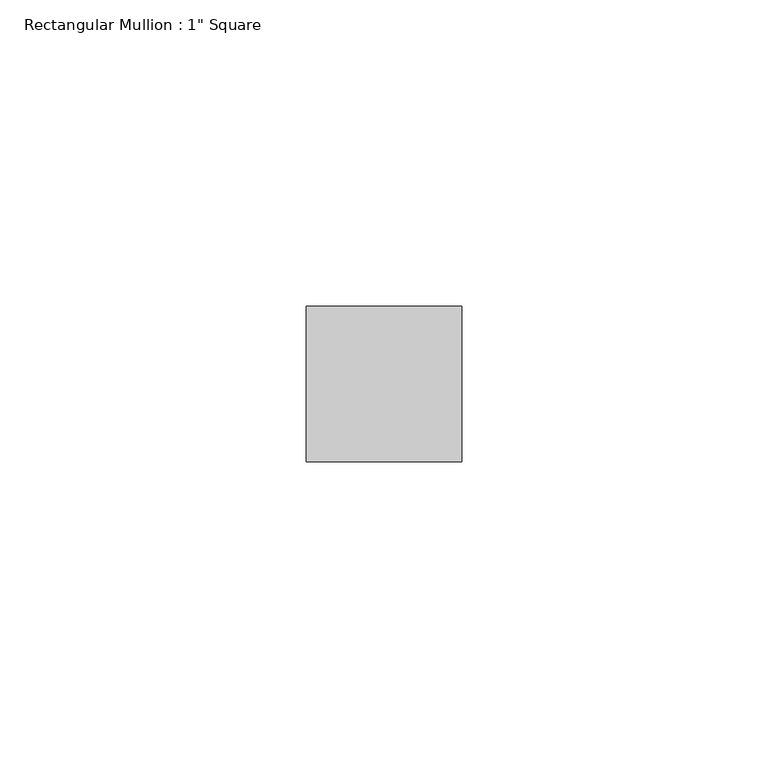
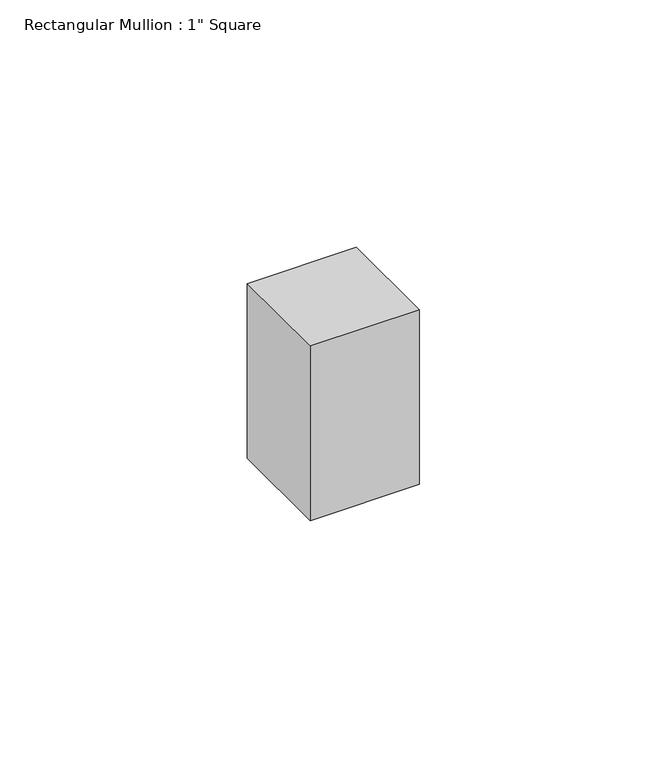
"""IFC4 building model written with IfcOpenShell, lengths in millimetres: member geometry."""

from ifc_helpers import new_model, si_unit, frame, origin, place, context, project, spatial, polyline, outline, extrude, source, transform, mapped, element, save


def member_c28afb9a(model_context):
    return source(origin(), model_context, "Body", "SweptSolid", [
        extrude(outline(polyline([(0.0, 12.7), (0.0, -12.7), (-25.4, -12.7), (-25.4, 12.7), (0.0, 12.7)])), frame((0.0, 0.0, -43.0621146), z_axis=(0.0, 0.0, 1.0), x_axis=(1.0, 0.0, 0.0)), (0.0, 0.0, 1.0), 43.0621146),
    ])


if __name__ == "__main__":
    model = new_model("IFC4")
    model_context = context("Model", 3, world=origin())
    ifc_project = project(units=[si_unit("LENGTHUNIT", "METRE", prefix="MILLI")], contexts=[model_context])
    site = spatial("IfcSite", under=ifc_project)
    building = spatial("IfcBuilding", under=site)
    placement = place(None, origin())
    member_shape = member_c28afb9a(model_context)
    element("IfcMember", 1, ObjectType="Rectangular Mullion : 1\" Square", at=placement, inside=building, context=model_context, shape_type="MappedRepresentation", body=[
        mapped(member_shape, transform((0.0, 0.0, 0.0), x_axis=(1.0, 0.0, 0.0), y_axis=(0.0, 1.0, 0.0), z_axis=(0.0, 0.0, 1.0))),
    ])
    save(model, "model.ifc")
